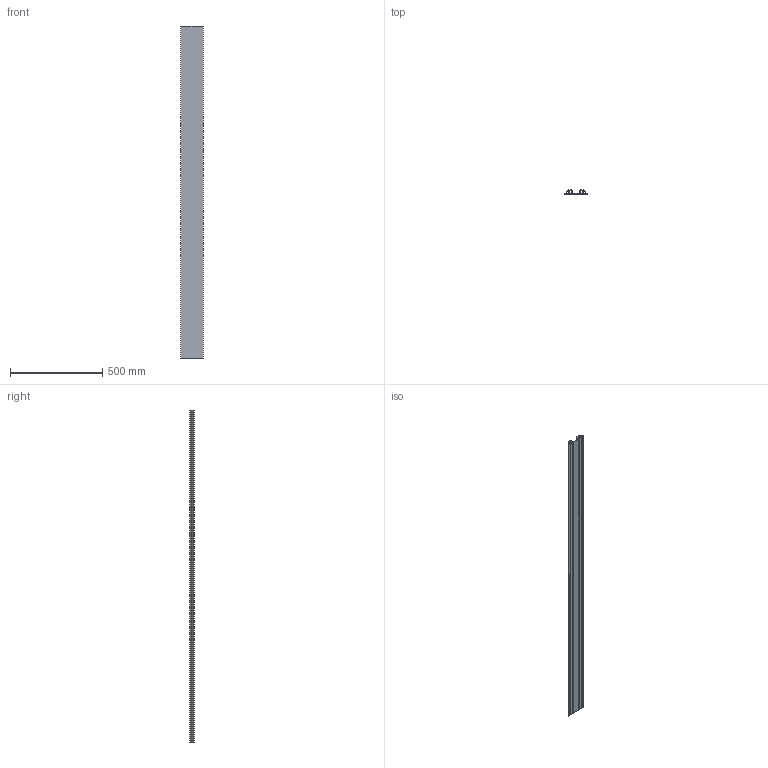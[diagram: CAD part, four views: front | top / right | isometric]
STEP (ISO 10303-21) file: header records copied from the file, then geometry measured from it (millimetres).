
FILE_DESCRIPTION(/* description */ ('STEP AP214'),/* implementation_level */ '2;1');
FILE_NAME(/* name */ '02082PO.1800',/* time_stamp */ '2026-01-21T15:36:44+01:00',/* author */ ('License CC BY-ND 4.0'),/* organization */ ('CADENAS'),/* preprocessor_version */ 'ST-DEVELOPER v20',/* originating_system */ 'PARTsolutions',/* authorisation */ ' ');
FILE_SCHEMA (('AUTOMOTIVE_DESIGN {1 0 10303 214 3 1 1}'));
Length unit declared in the file: millimetre
Products named in the file (1): 02082PO.1800
Bounding box: 120.5 x 22.7 x 1800 mm (x, y, z)
Volume: 971447.4 mm3; surface area: 946558.6 mm2
Topology: 1 solids, 1 shells, 92 faces, 270 edges, 180 vertices
Faces by surface type: plane 56, cylinder 36
Entity records: 3104 total; most frequent: CARTESIAN_POINT 543, ORIENTED_EDGE 540, DIRECTION 528, EDGE_CURVE 270, LINE 198, VECTOR 198, VERTEX_POINT 180, AXIS2_PLACEMENT_3D 165
